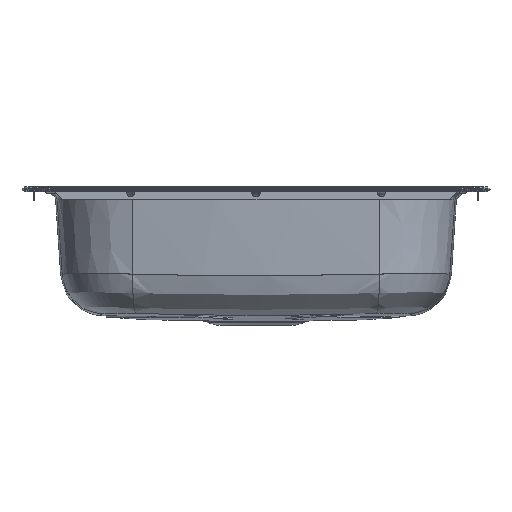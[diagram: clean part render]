
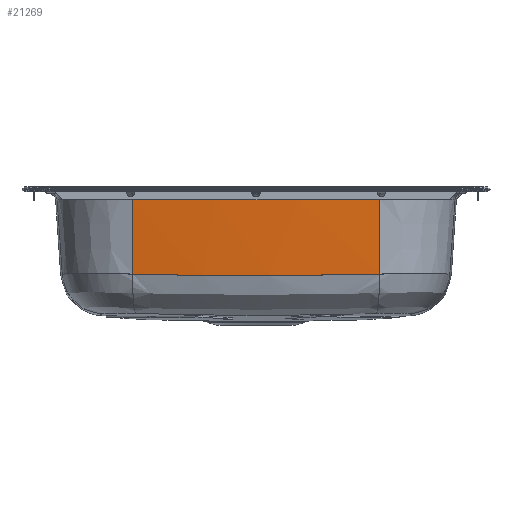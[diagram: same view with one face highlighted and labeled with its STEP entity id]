
A CAD part, top view. The second image highlights one B-rep face of the part: STEP entity #21269.
In plain terms, the highlighted conical face has half-angle 4 degrees and reference radius 1496.82 mm.
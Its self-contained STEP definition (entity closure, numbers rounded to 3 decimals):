
#1254=CARTESIAN_POINT('',(0.,-15.414,-1287.));
#1255=DIRECTION('',(0.,1.,0.));
#1256=DIRECTION('',(-0.099,0.,0.995));
#1257=AXIS2_PLACEMENT_3D('',#1254,#1255,#1256);
#6148=CARTESIAN_POINT('',(147.336,-104.609,199.492));
#6149=CARTESIAN_POINT('',(142.918,-104.731,199.921));
#6150=CARTESIAN_POINT('',(134.195,-104.965,200.73));
#6151=CARTESIAN_POINT('',(121.549,-105.281,201.793));
#6152=CARTESIAN_POINT('',(109.039,-105.571,202.741));
#6153=CARTESIAN_POINT('',(96.713,-105.833,203.573));
#6154=CARTESIAN_POINT('',(84.508,-106.066,204.298));
#6155=CARTESIAN_POINT('',(72.398,-106.27,204.921));
#6156=CARTESIAN_POINT('',(60.351,-106.445,205.444));
#6157=CARTESIAN_POINT('',(48.342,-106.59,205.871));
#6158=CARTESIAN_POINT('',(36.363,-106.705,206.203));
#6159=CARTESIAN_POINT('',(24.404,-106.787,206.44));
#6160=CARTESIAN_POINT('',(12.446,-106.838,206.584));
#6161=CARTESIAN_POINT('',(0.483,-106.856,
206.635));
#6162=CARTESIAN_POINT('',(-11.477,-106.841,
206.592));
#6163=CARTESIAN_POINT('',(-23.435,-106.793,
206.455));
#6164=CARTESIAN_POINT('',(-35.406,-106.712,
206.225));
#6165=CARTESIAN_POINT('',(-47.407,-106.6,
205.9));
#6166=CARTESIAN_POINT('',(-59.442,-106.457,
205.48));
#6167=CARTESIAN_POINT('',(-71.532,-106.284,
204.962));
#6168=CARTESIAN_POINT('',(-83.709,-106.08,
204.342));
#6169=CARTESIAN_POINT('',(-96.001,-105.847,
203.618));
#6170=CARTESIAN_POINT('',(-108.452,-105.584,
202.783));
#6171=CARTESIAN_POINT('',(-121.096,-105.292,
201.83));
#6172=CARTESIAN_POINT('',(-134.061,-104.968,
200.742));
#6173=CARTESIAN_POINT('',(-142.88,-104.732,
199.925));
#6174=CARTESIAN_POINT('',(-147.336,-104.609,
199.492));
#6176=DIRECTION('',(0.007,-0.998,-0.069));
#6177=VECTOR('',#6176,89.413);
#6178=CARTESIAN_POINT('',(-147.951,-15.414,
205.699));
#6179=LINE('',#6178,#6177);
#6220=CARTESIAN_POINT('',(147.336,-104.609,199.492));
#6222=DIRECTION('',(-0.007,-0.998,-0.069));
#6223=VECTOR('',#6222,89.413);
#6224=CARTESIAN_POINT('',(147.951,-15.414,205.699));
#6225=LINE('',#6224,#6223);
#11317=VERTEX_POINT('',#6220);
#11319=VERTEX_POINT('',#6174);
#11360=CARTESIAN_POINT('',(147.951,-15.414,
205.699));
#11361=VERTEX_POINT('',#11360);
#11366=CARTESIAN_POINT('',(-147.951,-15.414,
205.699));
#11368=VERTEX_POINT('',#11366);
#21256=CARTESIAN_POINT('',(0.,-61.132,-1287.));
#21257=DIRECTION('',(0.,1.,0.));
#21258=DIRECTION('',(0.099,0.,-0.995));
#21259=AXIS2_PLACEMENT_3D('',#21256,#21257,#21258);
#21260=CONICAL_SURFACE('',#21259,1496.816,4.);
#21261=ORIENTED_EDGE('',*,*,#13872,.T.);
#21263=ORIENTED_EDGE('',*,*,#21262,.T.);
#21265=ORIENTED_EDGE('',*,*,#21264,.T.);
#21266=ORIENTED_EDGE('',*,*,#21236,.F.);
#21267=EDGE_LOOP('',(#21261,#21263,#21265,#21266));
#21268=FACE_OUTER_BOUND('',#21267,.F.);
#21269=ADVANCED_FACE('',(#21268),#21260,.T.);
#1258=CIRCLE('',#1257,1500.013);
#6175=B_SPLINE_CURVE_WITH_KNOTS('',3,(#6148,#6149,#6150,#6151,#6152,#6153,#6154,
#6155,#6156,#6157,#6158,#6159,#6160,#6161,#6162,#6163,#6164,#6165,#6166,#6167,
#6168,#6169,#6170,#6171,#6172,#6173,#6174),.UNSPECIFIED.,.F.,.F.,(4,1,1,1,1,1,1,
1,1,1,1,1,1,1,1,1,1,1,1,1,1,1,1,1,4),(0.,0.042,0.083,
0.125,0.167,0.208,0.25,0.292,
0.333,0.375,0.417,0.458,0.5,
0.542,0.583,0.625,0.667,0.708,
0.75,0.792,0.833,0.875,0.917,
0.958,1.),.UNSPECIFIED.);
#13872=EDGE_CURVE('',#11368,#11361,#1258,.T.);
#21236=EDGE_CURVE('',#11368,#11319,#6179,.T.);
#21262=EDGE_CURVE('',#11361,#11317,#6225,.T.);
#21264=EDGE_CURVE('',#11317,#11319,#6175,.T.);
